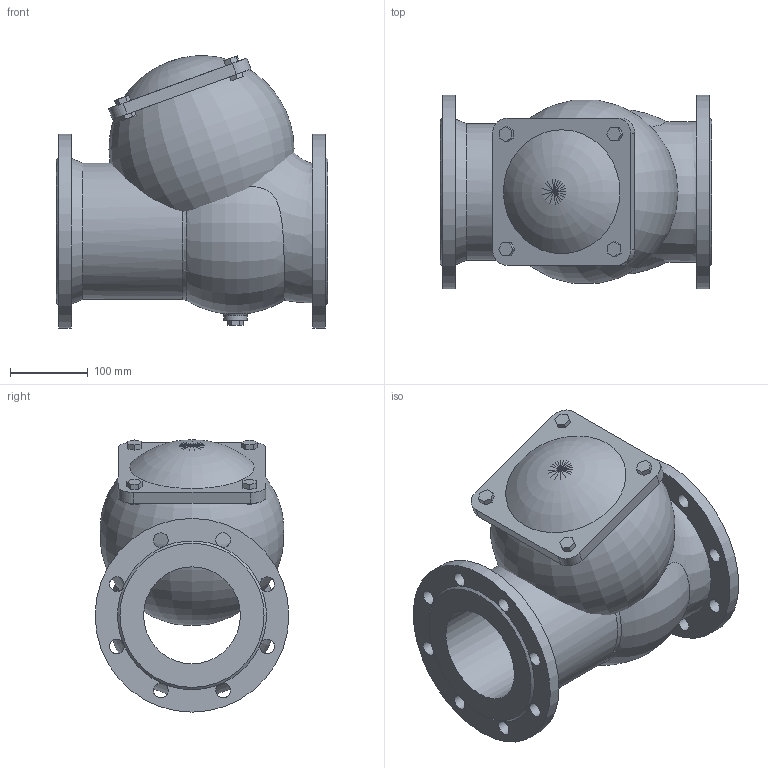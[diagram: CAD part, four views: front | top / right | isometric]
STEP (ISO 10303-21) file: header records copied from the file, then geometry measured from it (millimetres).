
FILE_DESCRIPTION(('STEP AP203'), '1');
FILE_NAME('抔黽鳧 012F.M DN125', '', ('UNSPECIFIED'), ('UNSPECIFIED'), 'ASCON STEP Converter 1.6', 'ASCON Math Kernel', '');
FILE_SCHEMA(('CONFIG_CONTROL_DESIGN'));
Length unit declared in the file: millimetre
Products named in the file (1): Клапан 012F.M DN125
Bounding box: 350 x 250 x 351.44 mm (x, y, z)
Surface area: 753177.5 mm2 (no closed solid volume)
Topology: 0 solids, 1 shells, 150 faces, 402 edges, 248 vertices
Faces by surface type: plane 102, cylinder 38, bspline 4, cone 3, torus 3
Full cylindrical faces by diameter (mm): 19 x16, 30 x1, 125 x1, 176 x1, 250 x2
Entity records: 9984 total; most frequent: CARTESIAN_POINT 5059, DIRECTION 759, ORIENTED_EDGE 736, EDGE_CURVE 371, AXIS2_PLACEMENT_3D 280, VERTEX_POINT 247, EDGE_LOOP 214, LINE 199
